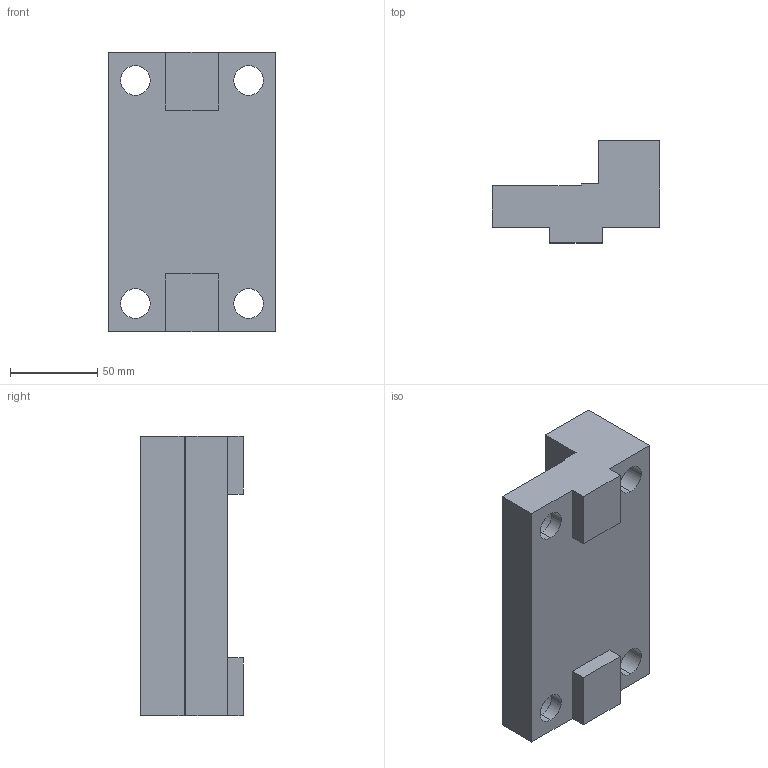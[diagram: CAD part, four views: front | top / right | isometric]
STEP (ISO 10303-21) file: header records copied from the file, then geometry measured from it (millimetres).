
FILE_DESCRIPTION (( 'STEP AP203' ), '1' );
FILE_NAME ('6921304006000.STEP', '2008-12-09T08:54:33', ( ' ' ), ( '' ), 'SwSTEP 2.0', 'SolidWorks 2008', '' );
FILE_SCHEMA (( 'CONFIG_CONTROL_DESIGN' ));
Length unit declared in the file: millimetre
Products named in the file (1): 6921304006000
Bounding box: 96 x 58.75 x 160.4 mm (x, y, z)
Volume: 482916 mm3; surface area: 63195 mm2
Topology: 1 solids, 1 shells, 38 faces, 96 edges, 64 vertices
Faces by surface type: plane 22, cylinder 16
Entity records: 1245 total; most frequent: DIRECTION 206, CARTESIAN_POINT 199, ORIENTED_EDGE 192, EDGE_CURVE 96, AXIS2_PLACEMENT_3D 71, VERTEX_POINT 64, VECTOR 64, LINE 64
